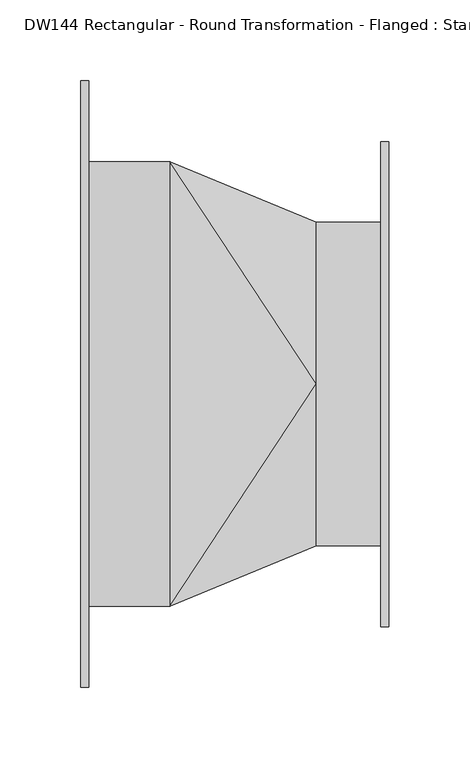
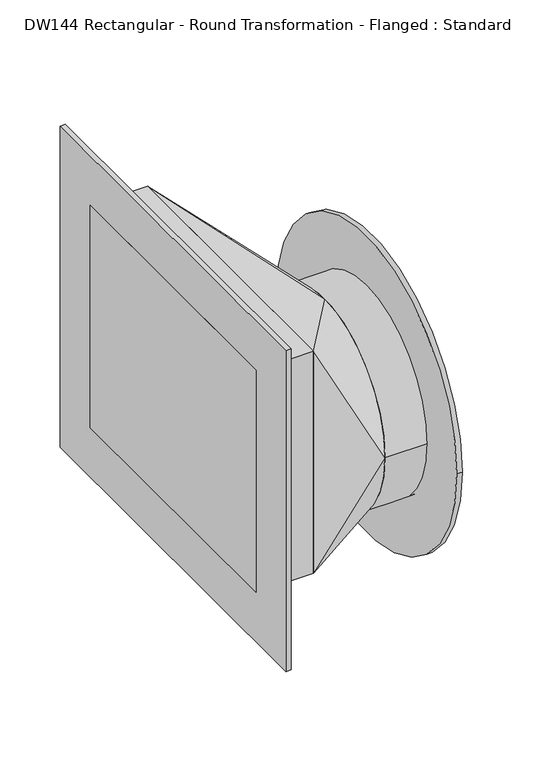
"""IFC4 building model written with IfcOpenShell, lengths in millimetres: duct fitting geometry, DW144 Rectangular - Round Transformation - Flanged : Standard."""

from ifc_helpers import new_model, si_unit, point, frame, frame_2d, origin, place, context, project, spatial, polyline, circle_curve, trimmed, segment, composite_curve, outline, extrude, source, transform, mapped, element, save
from ifc_brep_helpers import plane_surface, spline_surface, advanced_brep


def dw144_rectangular_round_transformation_flanged_standard_6ce73bfc(model_context):
    return source(origin(), model_context, "Body", "SolidModel", [
        extrude(outline(composite_curve([segment(trimmed(circle_curve(frame_2d((0.0, -50.0)), 100.0), [point((-100.0, -50.0))], [point((100.0, -50.0))], False, "CARTESIAN"), True, "CONTINUOUS"), segment(trimmed(circle_curve(frame_2d((0.0, -50.0)), 100.0), [point((100.0, -50.0))], [point((-100.0, -50.0))], False, "CARTESIAN"), True, "CONTINUOUS")], self_intersect=False)), frame((145.5330086, 0.0, 0.0), z_axis=(1.0, 0.0, 0.0), x_axis=(0.0, 1.0, 0.0)), (0.0, 0.0, 1.0), 45.0),
        extrude(outline(polyline([(55.0, 137.5), (55.0, -137.5), (0.0, -137.5), (0.0, 137.5), (55.0, 137.5)])), frame((0.0, 0.0, -112.5), z_axis=(0.0, 0.0, 1.0), x_axis=(1.0, 0.0, 0.0)), (0.0, 0.0, 1.0), 225.0),
        advanced_brep(
        [(145.5330086, 0.0, 50.0), (145.5330086, -100.0, -50.0), (145.5330086, 0.0, -150.0), (145.5330086, 100.0, -50.0), (55.0, -137.5, 112.5), (55.0, 137.5, 112.5), (55.0, 137.5, -112.5), (55.0, -137.5, -112.5)],
        [
            (0, 1, circle_curve(frame((145.5330086, 0.0, -50.0), z_axis=(1.0, 0.0, 0.0), x_axis=(0.0, 1.0, 0.0)), 100.0)),
            (1, 2, circle_curve(frame((145.5330086, 0.0, -50.0), z_axis=(1.0, 0.0, 0.0), x_axis=(0.0, 1.0, 0.0)), 100.0)),
            (2, 3, circle_curve(frame((145.5330086, 0.0, -50.0), z_axis=(1.0, 0.0, 0.0), x_axis=(0.0, 1.0, 0.0)), 100.0)),
            (3, 0, circle_curve(frame((145.5330086, 0.0, -50.0), z_axis=(1.0, 0.0, 0.0), x_axis=(0.0, 1.0, 0.0)), 100.0)),
            (4, 5),
            (5, 6),
            (6, 7),
            (7, 4),
            (0, 4),
            (4, 1),
            (7, 1),
            (7, 2),
            (6, 2),
            (6, 3),
            (5, 3),
            (5, 0),
        ],
        [
            plane_surface(frame((145.5330086, 0.0, -50.0), z_axis=(1.0, 0.0, 0.0), x_axis=(0.0, 0.0, -1.0))),
            plane_surface(frame((55.0, 0.0, 0.0), z_axis=(-1.0, 0.0, 0.0), x_axis=(0.0, 0.0, -1.0))),
            spline_surface(2, 1, [[(55.0, -137.5, 112.5), (145.5330086, 0.0, 50.0)], [(55.0, -137.5, 112.5), (145.5330086, -100.0, 50.0)], [(55.0, -137.5, 112.5), (145.5330086, -100.0, -50.0)]], [3, 3], [2, 2], [0.0, 1.0], [0.0, 1.0], weights=[[1.0, 1.0], [0.7071067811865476, 0.7071067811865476], [1.0, 1.0]]),
            plane_surface(frame((55.0, -137.5, 0.0), z_axis=(0.3826834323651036, -0.9238795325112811, 0.0), x_axis=(0.0, 0.0, -1.0))),
            spline_surface(2, 1, [[(55.0, -137.5, -112.5), (145.5330086, -100.0, -50.0)], [(55.0, -137.5, -112.5), (145.5330086, -100.0, -150.0)], [(55.0, -137.5, -112.5), (145.5330086, 0.0, -150.0)]], [3, 3], [2, 2], [0.0, 1.0], [0.0, 1.0], weights=[[1.0, 1.0], [0.7071067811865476, 0.7071067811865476], [1.0, 1.0]]),
            plane_surface(frame((55.0, 0.0, -112.5), z_axis=(-0.3826834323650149, 0.0, -0.9238795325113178), x_axis=(0.0, 1.0, 0.0))),
            spline_surface(2, 1, [[(55.0, 137.5, -112.5), (145.5330086, 0.0, -150.0)], [(55.0, 137.5, -112.5), (145.5330086, 100.0, -150.0)], [(55.0, 137.5, -112.5), (145.5330086, 100.0, -50.0)]], [3, 3], [2, 2], [0.0, 1.0], [0.0, 1.0], weights=[[1.0, 1.0], [0.7071067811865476, 0.7071067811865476], [1.0, 1.0]]),
            plane_surface(frame((55.0, 137.5, 0.0), z_axis=(0.38268343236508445, 0.9238795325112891, 0.0), x_axis=(0.0, 0.0, 1.0))),
            spline_surface(2, 1, [[(55.0, 137.5, 112.5), (145.5330086, 100.0, -50.0)], [(55.0, 137.5, 112.5), (145.5330086, 100.0, 50.0)], [(55.0, 137.5, 112.5), (145.5330086, 0.0, 50.0)]], [3, 3], [2, 2], [0.0, 1.0], [0.0, 1.0], weights=[[1.0, 1.0], [0.7071067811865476, 0.7071067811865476], [1.0, 1.0]]),
            plane_surface(frame((55.0, 0.0, 112.5), z_axis=(0.5681237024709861, 0.0, 0.8229431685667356), x_axis=(0.0, -1.0, 0.0))),
        ],
        [
            (0, [[1, 2, 3, 4]]),
            (1, [[5, 6, 7, 8]]),
            (2, [[-1, 9, 10]]),
            (3, [[-8, 11, -10]]),
            (4, [[-2, -11, 12]]),
            (5, [[-7, 13, -12]]),
            (6, [[-3, -13, 14]]),
            (7, [[-6, 15, -14]]),
            (8, [[-4, -15, 16]]),
            (9, [[-5, -9, -16]]),
        ],
    ),
        extrude(outline(composite_curve([segment(trimmed(circle_curve(frame_2d((0.0, -50.0)), 150.0), [point((-150.0, -50.0))], [point((150.0, -50.0))], False, "CARTESIAN"), True, "CONTINUOUS"), segment(trimmed(circle_curve(frame_2d((0.0, -50.0)), 150.0), [point((150.0, -50.0))], [point((-150.0, -50.0))], False, "CARTESIAN"), True, "CONTINUOUS")], self_intersect=False)), frame((185.5330086, 0.0, 0.0), z_axis=(1.0, 0.0, 0.0), x_axis=(0.0, 1.0, 0.0)), (0.0, 0.0, 1.0), 5.0),
        extrude(outline(polyline([(5.0, 187.5), (5.0, -187.5), (0.0, -187.5), (0.0, 187.5), (5.0, 187.5)])), frame((0.0, 0.0, -162.5), z_axis=(0.0, 0.0, 1.0), x_axis=(1.0, 0.0, 0.0)), (0.0, 0.0, 1.0), 325.0),
    ])


if __name__ == "__main__":
    model = new_model("IFC4")
    model_context = context("Model", 3, world=origin())
    ifc_project = project(units=[si_unit("LENGTHUNIT", "METRE", prefix="MILLI")], contexts=[model_context])
    site = spatial("IfcSite", under=ifc_project)
    building = spatial("IfcBuilding", under=site)
    placement = place(None, origin())
    dw144_rectangular_round_transformation_flanged_standard_shape = dw144_rectangular_round_transformation_flanged_standard_6ce73bfc(model_context)
    element("IfcDuctFitting", 1, ObjectType="DW144 Rectangular - Round Transformation - Flanged : Standard", at=placement, inside=building, context=model_context, shape_type="MappedRepresentation", body=[
        mapped(dw144_rectangular_round_transformation_flanged_standard_shape, transform((0.0, 0.0, 0.0), x_axis=(1.0, 0.0, 0.0), y_axis=(0.0, 1.0, 0.0), z_axis=(0.0, 0.0, 1.0))),
    ])
    save(model, "model.ifc")
